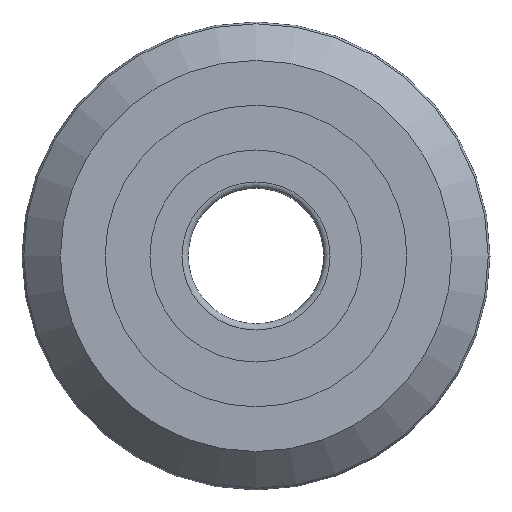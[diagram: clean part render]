
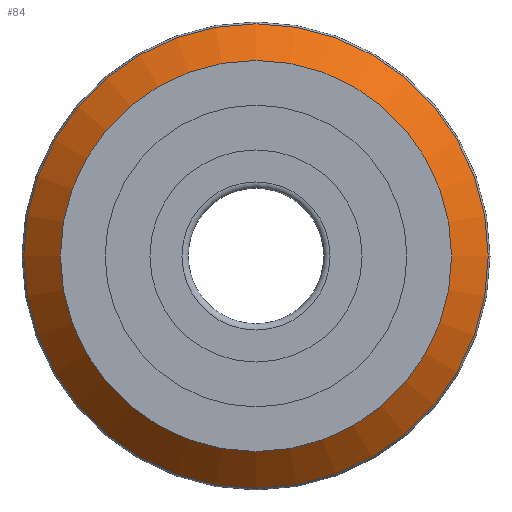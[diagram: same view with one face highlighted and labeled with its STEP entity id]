
A CAD part, left-side view. The second image highlights one B-rep face of the part: STEP entity #84.
In plain terms, the highlighted conical face has half-angle 45 degrees and reference radius 37.692 mm.
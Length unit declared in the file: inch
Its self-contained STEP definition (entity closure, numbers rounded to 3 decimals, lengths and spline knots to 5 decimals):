
#84 = ADVANCED_FACE( '', ( #192, #193 ), #194, .T. );
#192 = FACE_BOUND( '', #321, .T. );
#193 = FACE_OUTER_BOUND( '', #322, .T. );
#194 = CONICAL_SURFACE( '', #323, 1.48394, 0.785 );
#321 = EDGE_LOOP( '', ( #474 ) );
#322 = EDGE_LOOP( '', ( #475 ) );
#323 = AXIS2_PLACEMENT_3D( '', #476, #477, #478 );
#474 = ORIENTED_EDGE( '', *, *, #566, .T. );
#475 = ORIENTED_EDGE( '', *, *, #604, .F. );
#476 = CARTESIAN_POINT( '', ( -0.26606, 0., 0. ) );
#477 = DIRECTION( '', ( 1., 0., 0. ) );
#478 = DIRECTION( '', ( 0., 0., -1. ) );
#566 = EDGE_CURVE( '', #629, #629, #630, .T. );
#604 = EDGE_CURVE( '', #688, #688, #689, .T. );
#629 = VERTEX_POINT( '', #719 );
#630 = CIRCLE( '', #720, 1.25 );
#688 = VERTEX_POINT( '', #778 );
#689 = CIRCLE( '', #779, 1.48394 );
#719 = CARTESIAN_POINT( '', ( -0.5, 0., -1.25 ) );
#720 = AXIS2_PLACEMENT_3D( '', #809, #810, #811 );
#778 = CARTESIAN_POINT( '', ( -0.26606, 0., -1.48394 ) );
#779 = AXIS2_PLACEMENT_3D( '', #875, #876, #877 );
#809 = CARTESIAN_POINT( '', ( -0.5, 0., 0. ) );
#810 = DIRECTION( '', ( 1., 0., 0. ) );
#811 = DIRECTION( '', ( 0., 0., -1. ) );
#875 = CARTESIAN_POINT( '', ( -0.26606, 0., 0. ) );
#876 = DIRECTION( '', ( 1., 0., 0. ) );
#877 = DIRECTION( '', ( 0., 0., -1. ) );
